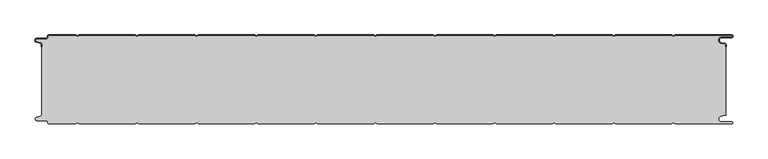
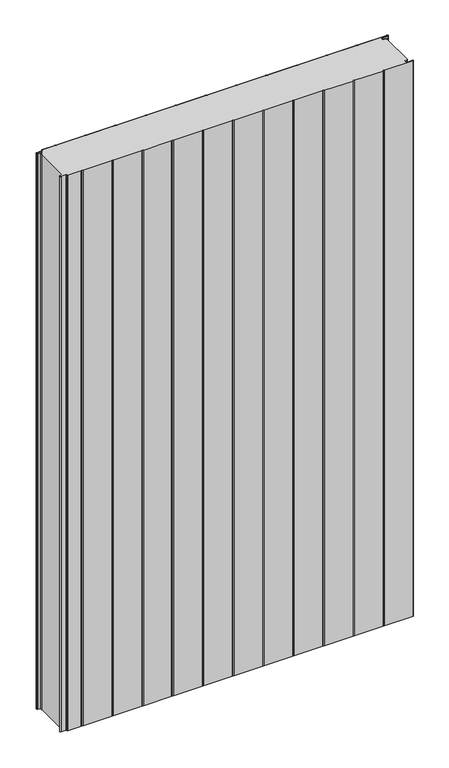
"""IFC4 building model written with IfcOpenShell, lengths in millimetres: plate geometry, PM1_Curtain-Panel_Perfil-Frigorífico : ACH_PM1_Panel-Acústico-Sectorización_150M."""

from ifc_helpers import new_model, si_unit, point, frame, frame_2d, origin, origin_with_axes, place, context, project, spatial, polyline, circle_curve, trimmed, segment, composite_curve, outline, extrude, source, transform, mapped, element, save
from ifc_brep_helpers import plane_surface, cylinder_surface, revolved_surface, advanced_brep


def plate_9c3616a6(model_context):
    return source(origin(), model_context, "Body", "SolidModel", [
        advanced_brep(
        [(-575.0, -15.878557, 1945.7507136), (-575.0, -20.0, 1945.7507136), (-574.2, -20.0, 1945.7507136), (-574.2, -15.878557, 1945.7507136), (-576.370137, -13.1503208, 1945.7507136), (-582.529863, -11.728236, 1945.7507136), (-581.9, -6.2, 1945.7507136), (-566.4, -6.2, 1945.7507136), (-563.6, -3.4, 1945.7507136), (-563.6, -2.0, 1945.7507136), (-562.4, -0.8, 1945.7507136), (-517.3143588, -0.8, 1945.7507136), (-514.4, -2.482606, 1945.7507136), (-511.4856412, -0.8, 1945.7507136), (-417.3143588, -0.8, 1945.7507136), (-414.4, -2.482606, 1945.7507136), (-411.4856412, -0.8, 1945.7507136), (-317.3143588, -0.8, 1945.7507136), (-314.4, -2.482606, 1945.7507136), (-311.4856412, -0.8, 1945.7507136), (-217.3143588, -0.8, 1945.7507136), (-214.4, -2.482606, 1945.7507136), (-211.4856412, -0.8, 1945.7507136), (-117.3143588, -0.8, 1945.7507136), (-114.4, -2.482606, 1945.7507136), (-111.4856412, -0.8, 1945.7507136), (-17.3143588, -0.8, 1945.7507136), (-14.4, -2.482606, 1945.7507136), (-11.4856412, -0.8, 1945.7507136), (82.6856412, -0.8, 1945.7507136), (85.6, -2.482606, 1945.7507136), (88.5143588, -0.8, 1945.7507136), (182.6856412, -0.8, 1945.7507136), (185.6, -2.482606, 1945.7507136), (188.5143588, -0.8, 1945.7507136), (282.6856412, -0.8, 1945.7507136), (285.6, -2.482606, 1945.7507136), (288.5143588, -0.8, 1945.7507136), (382.6856412, -0.8, 1945.7507136), (385.6, -2.482606, 1945.7507136), (388.5143588, -0.8, 1945.7507136), (482.6856412, -0.8, 1945.7507136), (485.6, -2.482606, 1945.7507136), (488.5143588, -0.8, 1945.7507136), (583.1, -0.8, 1945.7507136), (583.1, -4.2, 1945.7507136), (566.1, -4.2, 1945.7507136), (565.2664884, -13.7270771, 1945.7507136), (571.7125669, -14.8636953, 1945.7507136), (573.2, -16.6363492, 1945.7507136), (573.2, -20.0, 1945.7507136), (574.0, -20.0, 1945.7507136), (574.0, -16.6363492, 1945.7507136), (571.8514855, -14.0758491, 1945.7507136), (565.405407, -12.939231, 1945.7507136), (566.1, -5.0, 1945.7507136), (583.1, -5.0, 1945.7507136), (585.6, -2.5, 1945.7507136), (583.1, 0.0, 1945.7507136), (488.2999995, 0.0, 1945.7507136), (485.6, -1.5588455, 1945.7507136), (482.9000005, 0.0, 1945.7507136), (388.2999995, 0.0, 1945.7507136), (385.6, -1.5588455, 1945.7507136), (382.9000005, 0.0, 1945.7507136), (288.2999995, 0.0, 1945.7507136), (285.6, -1.5588455, 1945.7507136), (282.9000005, 0.0, 1945.7507136), (188.2999995, 0.0, 1945.7507136), (185.6, -1.5588455, 1945.7507136), (182.9000005, 0.0, 1945.7507136), (88.2999995, 0.0, 1945.7507136), (85.6, -1.5588455, 1945.7507136), (82.9000005, 0.0, 1945.7507136), (-11.7000005, 0.0, 1945.7507136), (-14.4, -1.5588455, 1945.7507136), (-17.0999995, 0.0, 1945.7507136), (-111.7000005, 0.0, 1945.7507136), (-114.4, -1.5588455, 1945.7507136), (-117.0999995, 0.0, 1945.7507136), (-211.7000005, 0.0, 1945.7507136), (-214.4, -1.5588455, 1945.7507136), (-217.0999995, 0.0, 1945.7507136), (-311.7000005, 0.0, 1945.7507136), (-314.4, -1.5588455, 1945.7507136), (-317.0999995, 0.0, 1945.7507136), (-411.7000005, 0.0, 1945.7507136), (-414.4, -1.5588455, 1945.7507136), (-417.0999995, 0.0, 1945.7507136), (-511.7000005, 0.0, 1945.7507136), (-514.4, -1.5588455, 1945.7507136), (-517.0999995, 0.0, 1945.7507136), (-562.4, 0.0, 1945.7507136), (-564.4, -2.0, 1945.7507136), (-564.4, -3.4, 1945.7507136), (-566.4, -5.4, 1945.7507136), (-581.9, -5.4, 1945.7507136), (-582.7098239, -12.5077322, 1945.7507136), (-576.5500979, -13.929817, 1945.7507136), (-575.0, -15.878557, 0.0), (-576.5500978, -13.9298169, 0.0), (-582.7098239, -12.507732, 0.0), (-581.9, -5.4, 0.0), (-566.4, -5.4, 0.0), (-564.4, -3.4, 0.0), (-564.4, -2.0, 0.0), (-562.4, 0.0, 0.0), (-517.0999995, 0.0, 0.0), (-514.4, -1.5588455, 0.0), (-511.7000005, 0.0, 0.0), (-417.0999995, 0.0, 0.0), (-414.4, -1.5588455, 0.0), (-411.7000005, 0.0, 0.0), (-317.0999995, 0.0, 0.0), (-314.4, -1.5588455, 0.0), (-311.7000005, 0.0, 0.0), (-217.0999995, 0.0, 0.0), (-214.4, -1.5588455, 0.0), (-211.7000005, 0.0, 0.0), (-117.0999995, 0.0, 0.0), (-114.4, -1.5588455, 0.0), (-111.7000005, 0.0, 0.0), (-17.0999995, 0.0, 0.0), (-14.4, -1.5588455, 0.0), (-11.7000005, 0.0, 0.0), (82.9000005, 0.0, 0.0), (85.6, -1.5588455, 0.0), (88.2999995, 0.0, 0.0), (182.9000005, 0.0, 0.0), (185.6, -1.5588455, 0.0), (188.2999995, 0.0, 0.0), (282.9000005, 0.0, 0.0), (285.6, -1.5588455, 0.0), (288.2999995, 0.0, 0.0), (382.9000005, 0.0, 0.0), (385.6, -1.5588455, 0.0), (388.2999995, 0.0, 0.0), (482.9000005, 0.0, 0.0), (485.6, -1.5588455, 0.0), (488.2999995, 0.0, 0.0), (583.1, 0.0, 0.0), (585.6, -2.5, 0.0), (583.1, -5.0, 0.0), (566.1, -5.0, 0.0), (565.405407, -12.939231, 0.0), (571.8514855, -14.0758491, 0.0), (574.0, -16.6363492, 0.0), (574.0, -20.0, 0.0), (573.2, -20.0, 0.0), (573.2, -16.6363492, 0.0), (571.7125669, -14.8636953, 0.0), (565.2664884, -13.7270772, 0.0), (566.1, -4.2, 0.0), (583.1, -4.2, 0.0), (583.1, -0.8, 0.0), (488.5143588, -0.8, 0.0), (485.6, -2.482606, 0.0), (482.6856412, -0.8, 0.0), (388.5143588, -0.8, 0.0), (385.6, -2.482606, 0.0), (382.6856412, -0.8, 0.0), (288.5143588, -0.8, 0.0), (285.6, -2.482606, 0.0), (282.6856412, -0.8, 0.0), (188.5143588, -0.8, 0.0), (185.6, -2.482606, 0.0), (182.6856412, -0.8, 0.0), (88.5143588, -0.8, 0.0), (85.6, -2.482606, 0.0), (82.6856412, -0.8, 0.0), (-11.4856412, -0.8, 0.0), (-14.4, -2.482606, 0.0), (-17.3143588, -0.8, 0.0), (-111.4856412, -0.8, 0.0), (-114.4, -2.482606, 0.0), (-117.3143588, -0.8, 0.0), (-211.4856412, -0.8, 0.0), (-214.4, -2.482606, 0.0), (-217.3143588, -0.8, 0.0), (-311.4856412, -0.8, 0.0), (-314.4, -2.482606, 0.0), (-317.3143588, -0.8, 0.0), (-411.4856412, -0.8, 0.0), (-414.4, -2.482606, 0.0), (-417.3143588, -0.8, 0.0), (-511.4856412, -0.8, 0.0), (-514.4, -2.482606, 0.0), (-517.3143588, -0.8, 0.0), (-562.4, -0.8, 0.0), (-563.6, -2.0, 0.0), (-563.6, -3.4, 0.0), (-566.4, -6.2, 0.0), (-581.9, -6.2, 0.0), (-582.529863, -11.7282362, 0.0), (-576.370137, -13.150321, 0.0), (-574.2, -15.878557, 0.0), (-574.2, -20.0, 0.0), (-575.0, -20.0, 0.0)],
        [
            (0, 1),
            (1, 2),
            (2, 3),
            (3, 4, circle_curve(frame((-577.0, -15.878557, 1945.7507136), z_axis=(0.0, 0.0, 1.0), x_axis=(1.0, 0.0, 0.0)), 2.8)),
            (4, 5),
            (5, 6, circle_curve(frame((-581.9, -9.0, 1945.7507136), z_axis=(0.0, 0.0, -1.0), x_axis=(1.0, 0.0, 0.0)), 2.8)),
            (6, 7),
            (7, 8, circle_curve(frame((-566.4, -3.4, 1945.7507136), z_axis=(0.0, 0.0, 1.0), x_axis=(1.0, 0.0, 0.0)), 2.8)),
            (8, 9),
            (9, 10, circle_curve(frame((-562.4, -2.0, 1945.7507136), z_axis=(0.0, 0.0, -1.0), x_axis=(1.0, 0.0, 0.0)), 1.2)),
            (10, 11),
            (11, 12),
            (12, 13),
            (13, 14),
            (14, 15),
            (15, 16),
            (16, 17),
            (17, 18),
            (18, 19),
            (19, 20),
            (20, 21),
            (21, 22),
            (22, 23),
            (23, 24),
            (24, 25),
            (25, 26),
            (26, 27),
            (27, 28),
            (28, 29),
            (29, 30),
            (30, 31),
            (31, 32),
            (32, 33),
            (33, 34),
            (34, 35),
            (35, 36),
            (36, 37),
            (37, 38),
            (38, 39),
            (39, 40),
            (40, 41),
            (41, 42),
            (42, 43),
            (43, 44),
            (44, 45, circle_curve(frame((583.1, -2.5, 1945.7507136), z_axis=(0.0, 0.0, -1.0), x_axis=(1.0, 0.0, 0.0)), 1.7)),
            (45, 46),
            (46, 47, circle_curve(frame((566.1, -9.0, 1945.7507136), z_axis=(0.0, 0.0, 1.0), x_axis=(1.0, 0.0, 0.0)), 4.8)),
            (47, 48),
            (48, 49, circle_curve(frame((571.4, -16.6363492, 1945.7507136), z_axis=(0.0, 0.0, -1.0), x_axis=(1.0, 0.0, 0.0)), 1.8)),
            (49, 50),
            (50, 51),
            (51, 52),
            (52, 53, circle_curve(frame((571.4, -16.6363492, 1945.7507136), z_axis=(0.0, 0.0, 1.0), x_axis=(1.0, 0.0, 0.0)), 2.6)),
            (53, 54),
            (54, 55, circle_curve(frame((566.1, -9.0, 1945.7507136), z_axis=(0.0, 0.0, -1.0), x_axis=(1.0, 0.0, 0.0)), 4.0)),
            (55, 56),
            (56, 57, circle_curve(frame((583.1, -2.5, 1945.7507136), z_axis=(0.0, 0.0, 1.0), x_axis=(1.0, 0.0, 0.0)), 2.5)),
            (57, 58, circle_curve(frame((583.1, -2.5, 1945.7507136), z_axis=(0.0, 0.0, 1.0), x_axis=(1.0, 0.0, 0.0)), 2.5)),
            (58, 59),
            (59, 60),
            (60, 61),
            (61, 62),
            (62, 63),
            (63, 64),
            (64, 65),
            (65, 66),
            (66, 67),
            (67, 68),
            (68, 69),
            (69, 70),
            (70, 71),
            (71, 72),
            (72, 73),
            (73, 74),
            (74, 75),
            (75, 76),
            (76, 77),
            (77, 78),
            (78, 79),
            (79, 80),
            (80, 81),
            (81, 82),
            (82, 83),
            (83, 84),
            (84, 85),
            (85, 86),
            (86, 87),
            (87, 88),
            (88, 89),
            (89, 90),
            (90, 91),
            (91, 92),
            (92, 93, circle_curve(frame((-562.4, -2.0, 1945.7507136), z_axis=(0.0, 0.0, 1.0), x_axis=(1.0, 0.0, 0.0)), 2.0)),
            (93, 94),
            (94, 95, circle_curve(frame((-566.4, -3.4, 1945.7507136), z_axis=(0.0, 0.0, -1.0), x_axis=(1.0, 0.0, 0.0)), 2.0)),
            (95, 96),
            (96, 97, circle_curve(frame((-581.9, -9.0, 1945.7507136), z_axis=(0.0, 0.0, 1.0), x_axis=(1.0, 0.0, 0.0)), 3.6)),
            (97, 98),
            (98, 0, circle_curve(frame((-577.0, -15.878557, 1945.7507136), z_axis=(0.0, 0.0, -1.0), x_axis=(1.0, 0.0, 0.0)), 2.0)),
            (99, 100, circle_curve(frame((-577.0, -15.878557, 0.0), z_axis=(0.0, 0.0, 1.0), x_axis=(1.0, 0.0, 0.0)), 2.0)),
            (100, 101),
            (101, 102, circle_curve(frame((-581.9, -9.0, 0.0), z_axis=(0.0, 0.0, -1.0), x_axis=(1.0, 0.0, 0.0)), 3.6)),
            (102, 103),
            (103, 104, circle_curve(frame((-566.4, -3.4, 0.0), z_axis=(0.0, 0.0, 1.0), x_axis=(1.0, 0.0, 0.0)), 2.0)),
            (104, 105),
            (105, 106, circle_curve(frame((-562.4, -2.0, 0.0), z_axis=(0.0, 0.0, -1.0), x_axis=(1.0, 0.0, 0.0)), 2.0)),
            (106, 107),
            (107, 108),
            (108, 109),
            (109, 110),
            (110, 111),
            (111, 112),
            (112, 113),
            (113, 114),
            (114, 115),
            (115, 116),
            (116, 117),
            (117, 118),
            (118, 119),
            (119, 120),
            (120, 121),
            (121, 122),
            (122, 123),
            (123, 124),
            (124, 125),
            (125, 126),
            (126, 127),
            (127, 128),
            (128, 129),
            (129, 130),
            (130, 131),
            (131, 132),
            (132, 133),
            (133, 134),
            (134, 135),
            (135, 136),
            (136, 137),
            (137, 138),
            (138, 139),
            (139, 140),
            (140, 141, circle_curve(frame((583.1, -2.5, 0.0), z_axis=(0.0, 0.0, -1.0), x_axis=(1.0, 0.0, 0.0)), 2.5)),
            (141, 142, circle_curve(frame((583.1, -2.5, 0.0), z_axis=(0.0, 0.0, -1.0), x_axis=(1.0, 0.0, 0.0)), 2.5)),
            (142, 143),
            (143, 144, circle_curve(frame((566.1, -9.0, 0.0), z_axis=(0.0, 0.0, 1.0), x_axis=(1.0, 0.0, 0.0)), 4.0)),
            (144, 145),
            (145, 146, circle_curve(frame((571.4, -16.6363492, 0.0), z_axis=(0.0, 0.0, -1.0), x_axis=(1.0, 0.0, 0.0)), 2.6)),
            (146, 147),
            (147, 148),
            (148, 149),
            (149, 150, circle_curve(frame((571.4, -16.6363492, 0.0), z_axis=(0.0, 0.0, 1.0), x_axis=(1.0, 0.0, 0.0)), 1.8)),
            (150, 151),
            (151, 152, circle_curve(frame((566.1, -9.0, 0.0), z_axis=(0.0, 0.0, -1.0), x_axis=(1.0, 0.0, 0.0)), 4.8)),
            (152, 153),
            (153, 154, circle_curve(frame((583.1, -2.5, 0.0), z_axis=(0.0, 0.0, 1.0), x_axis=(1.0, 0.0, 0.0)), 1.7)),
            (154, 155),
            (155, 156),
            (156, 157),
            (157, 158),
            (158, 159),
            (159, 160),
            (160, 161),
            (161, 162),
            (162, 163),
            (163, 164),
            (164, 165),
            (165, 166),
            (166, 167),
            (167, 168),
            (168, 169),
            (169, 170),
            (170, 171),
            (171, 172),
            (172, 173),
            (173, 174),
            (174, 175),
            (175, 176),
            (176, 177),
            (177, 178),
            (178, 179),
            (179, 180),
            (180, 181),
            (181, 182),
            (182, 183),
            (183, 184),
            (184, 185),
            (185, 186),
            (186, 187),
            (187, 188),
            (188, 189, circle_curve(frame((-562.4, -2.0, 0.0), z_axis=(0.0, 0.0, 1.0), x_axis=(1.0, 0.0, 0.0)), 1.2)),
            (189, 190),
            (190, 191, circle_curve(frame((-566.4, -3.4, 0.0), z_axis=(0.0, 0.0, -1.0), x_axis=(1.0, 0.0, 0.0)), 2.8)),
            (191, 192),
            (192, 193, circle_curve(frame((-581.9, -9.0, 0.0), z_axis=(0.0, 0.0, 1.0), x_axis=(1.0, 0.0, 0.0)), 2.8)),
            (193, 194),
            (194, 195, circle_curve(frame((-577.0, -15.878557, 0.0), z_axis=(0.0, 0.0, -1.0), x_axis=(1.0, 0.0, 0.0)), 2.8)),
            (195, 196),
            (196, 197),
            (197, 99),
            (0, 99),
            (197, 1),
            (196, 2),
            (195, 3),
            (194, 4),
            (193, 5),
            (192, 6),
            (191, 7),
            (190, 8),
            (189, 9),
            (188, 10),
            (187, 11),
            (186, 12),
            (185, 13),
            (184, 14),
            (183, 15),
            (182, 16),
            (181, 17),
            (180, 18),
            (179, 19),
            (178, 20),
            (177, 21),
            (176, 22),
            (175, 23),
            (174, 24),
            (173, 25),
            (172, 26),
            (171, 27),
            (170, 28),
            (169, 29),
            (168, 30),
            (167, 31),
            (166, 32),
            (165, 33),
            (164, 34),
            (163, 35),
            (162, 36),
            (161, 37),
            (160, 38),
            (159, 39),
            (158, 40),
            (157, 41),
            (156, 42),
            (155, 43),
            (154, 44),
            (153, 45),
            (152, 46),
            (151, 47),
            (150, 48),
            (149, 49),
            (148, 50),
            (147, 51),
            (146, 52),
            (145, 53),
            (144, 54),
            (143, 55),
            (142, 56),
            (140, 58),
            (139, 59),
            (138, 60),
            (137, 61),
            (136, 62),
            (135, 63),
            (134, 64),
            (133, 65),
            (132, 66),
            (131, 67),
            (130, 68),
            (129, 69),
            (128, 70),
            (127, 71),
            (126, 72),
            (125, 73),
            (124, 74),
            (123, 75),
            (122, 76),
            (121, 77),
            (120, 78),
            (119, 79),
            (118, 80),
            (117, 81),
            (116, 82),
            (115, 83),
            (114, 84),
            (113, 85),
            (112, 86),
            (111, 87),
            (110, 88),
            (109, 89),
            (108, 90),
            (107, 91),
            (106, 92),
            (105, 93),
            (104, 94),
            (103, 95),
            (102, 96),
            (101, 97),
            (100, 98),
        ],
        [
            plane_surface(frame((-575.0, 0.0, 1945.7507136), z_axis=(0.0, 0.0, 1.0), x_axis=(0.0, 1.0, 0.0))),
            plane_surface(frame((-575.0, 0.0, 0.0), z_axis=(0.0, 0.0, -1.0), x_axis=(0.0, 1.0, 0.0))),
            plane_surface(frame((-575.0, -15.878557, 1945.7507136), z_axis=(-1.0, 0.0, 0.0), x_axis=(0.0, 0.0, -1.0))),
            plane_surface(frame((-575.0, -20.0, 1945.7507136), z_axis=(0.0, -1.0, 0.0), x_axis=(0.0, 0.0, -1.0))),
            plane_surface(frame((-574.2, -20.0, 1945.7507136), z_axis=(1.0, 0.0, 0.0), x_axis=(0.0, 0.0, -1.0))),
            cylinder_surface(frame((-577.0, -15.878557, 1945.7507136), z_axis=(0.0, 0.0, 1.0), x_axis=(1.0, 0.0, 0.0)), 2.8),
            plane_surface(frame((-576.370137, -13.150321, 1945.7507136), z_axis=(0.22495108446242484, 0.9743700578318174, 0.0), x_axis=(0.0, 0.0, -1.0))),
            revolved_surface(polyline([(-579.1, -9.0, 0.0), (-579.1, -9.0, 1945.7507136)]), (-581.9, -9.0, 1945.7507136), (0.0, 0.0, -1.0)),
            plane_surface(frame((-581.9, -6.2, 1945.7507136), z_axis=(0.0, -1.0, 0.0), x_axis=(0.0, 0.0, -1.0))),
            cylinder_surface(frame((-566.4, -3.4, 1945.7507136), z_axis=(0.0, 0.0, 1.0), x_axis=(1.0, 0.0, 0.0)), 2.8),
            plane_surface(frame((-563.6, -3.4, 1945.7507136), z_axis=(1.0, 0.0, 0.0), x_axis=(0.0, 0.0, -1.0))),
            revolved_surface(polyline([(-561.1999999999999, -2.0, 0.0), (-561.1999999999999, -2.0, 1945.7507136)]), (-562.4, -2.0, 1945.7507136), (0.0, 0.0, -1.0)),
            plane_surface(frame((-562.4, -0.8, 1945.7507136), z_axis=(0.0, -1.0, 0.0), x_axis=(0.0, 0.0, -1.0))),
            plane_surface(frame((-517.3143588, -0.8, 1945.7507136), z_axis=(-0.5000000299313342, -0.8660253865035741, 0.0), x_axis=(0.0, 0.0, -1.0))),
            plane_surface(frame((-514.4, -2.482606, 1945.7507136), z_axis=(0.5000000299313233, -0.8660253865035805, 0.0), x_axis=(0.0, 0.0, -1.0))),
            plane_surface(frame((-511.4856412, -0.8, 1945.7507136), z_axis=(0.0, -1.0, 0.0), x_axis=(0.0, 0.0, -1.0))),
            plane_surface(frame((-417.3143588, -0.8, 1945.7507136), z_axis=(-0.5000000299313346, -0.8660253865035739, 0.0), x_axis=(0.0, 0.0, -1.0))),
            plane_surface(frame((-414.4, -2.482606, 1945.7507136), z_axis=(0.5000000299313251, -0.8660253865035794, 0.0), x_axis=(0.0, 0.0, -1.0))),
            plane_surface(frame((-411.4856412, -0.8, 1945.7507136), z_axis=(0.0, -1.0, 0.0), x_axis=(0.0, 0.0, -1.0))),
            plane_surface(frame((-317.3143588, -0.8, 1945.7507136), z_axis=(-0.5000000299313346, -0.866025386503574, 0.0), x_axis=(0.0, 0.0, -1.0))),
            plane_surface(frame((-314.4, -2.482606, 1945.7507136), z_axis=(0.5000000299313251, -0.8660253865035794, 0.0), x_axis=(0.0, 0.0, -1.0))),
            plane_surface(frame((-311.4856412, -0.8, 1945.7507136), z_axis=(0.0, -1.0, 0.0), x_axis=(0.0, 0.0, -1.0))),
            plane_surface(frame((-217.3143588, -0.8, 1945.7507136), z_axis=(-0.5000000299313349, -0.8660253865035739, 0.0), x_axis=(0.0, 0.0, -1.0))),
            plane_surface(frame((-214.4, -2.482606, 1945.7507136), z_axis=(0.5000000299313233, -0.8660253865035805, 0.0), x_axis=(0.0, 0.0, -1.0))),
            plane_surface(frame((-211.4856412, -0.8, 1945.7507136), z_axis=(0.0, -1.0, 0.0), x_axis=(0.0, 0.0, -1.0))),
            plane_surface(frame((-117.3143588, -0.8, 1945.7507136), z_axis=(-0.5000000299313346, -0.866025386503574, 0.0), x_axis=(0.0, 0.0, -1.0))),
            plane_surface(frame((-114.4, -2.482606, 1945.7507136), z_axis=(0.5000000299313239, -0.8660253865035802, 0.0), x_axis=(0.0, 0.0, -1.0))),
            plane_surface(frame((-111.4856412, -0.8, 1945.7507136), z_axis=(0.0, -1.0, 0.0), x_axis=(0.0, 0.0, -1.0))),
            plane_surface(frame((-17.3143588, -0.8, 1945.7507136), z_axis=(-0.5000000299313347, -0.8660253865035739, 0.0), x_axis=(0.0, 0.0, -1.0))),
            plane_surface(frame((-14.4, -2.482606, 1945.7507136), z_axis=(0.5000000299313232, -0.8660253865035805, 0.0), x_axis=(0.0, 0.0, -1.0))),
            plane_surface(frame((-11.4856412, -0.8, 1945.7507136), z_axis=(0.0, -1.0, 0.0), x_axis=(0.0, 0.0, -1.0))),
            plane_surface(frame((82.6856412, -0.8, 1945.7507136), z_axis=(-0.5000000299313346, -0.866025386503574, 0.0), x_axis=(0.0, 0.0, -1.0))),
            plane_surface(frame((85.6, -2.482606, 1945.7507136), z_axis=(0.5000000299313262, -0.8660253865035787, 0.0), x_axis=(0.0, 0.0, -1.0))),
            plane_surface(frame((88.5143588, -0.8, 1945.7507136), z_axis=(0.0, -1.0, 0.0), x_axis=(0.0, 0.0, -1.0))),
            plane_surface(frame((182.6856412, -0.8, 1945.7507136), z_axis=(-0.5000000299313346, -0.8660253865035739, 0.0), x_axis=(0.0, 0.0, -1.0))),
            plane_surface(frame((185.6, -2.482606, 1945.7507136), z_axis=(0.5000000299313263, -0.8660253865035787, 0.0), x_axis=(0.0, 0.0, -1.0))),
            plane_surface(frame((188.5143588, -0.8, 1945.7507136), z_axis=(0.0, -1.0, 0.0), x_axis=(0.0, 0.0, -1.0))),
            plane_surface(frame((282.6856412, -0.8, 1945.7507136), z_axis=(-0.5000000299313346, -0.8660253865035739, 0.0), x_axis=(0.0, 0.0, -1.0))),
            plane_surface(frame((285.6, -2.482606, 1945.7507136), z_axis=(0.5000000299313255, -0.8660253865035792, 0.0), x_axis=(0.0, 0.0, -1.0))),
            plane_surface(frame((288.5143588, -0.8, 1945.7507136), z_axis=(0.0, -1.0, 0.0), x_axis=(0.0, 0.0, -1.0))),
            plane_surface(frame((382.6856412, -0.8, 1945.7507136), z_axis=(-0.5000000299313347, -0.8660253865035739, 0.0), x_axis=(0.0, 0.0, -1.0))),
            plane_surface(frame((385.6, -2.482606, 1945.7507136), z_axis=(0.5000000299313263, -0.8660253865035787, 0.0), x_axis=(0.0, 0.0, -1.0))),
            plane_surface(frame((388.5143588, -0.8, 1945.7507136), z_axis=(0.0, -1.0, 0.0), x_axis=(0.0, 0.0, -1.0))),
            plane_surface(frame((482.6856412, -0.8, 1945.7507136), z_axis=(-0.5000000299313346, -0.866025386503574, 0.0), x_axis=(0.0, 0.0, -1.0))),
            plane_surface(frame((485.6, -2.482606, 1945.7507136), z_axis=(0.5000000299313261, -0.8660253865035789, 0.0), x_axis=(0.0, 0.0, -1.0))),
            plane_surface(frame((535.6, -0.8, 1945.7507136), z_axis=(0.0, -1.0, 0.0), x_axis=(0.0, 0.0, -1.0))),
            revolved_surface(polyline([(584.8000000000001, -2.5, 0.0), (584.8000000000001, -2.5, 1945.7507136)]), (583.1, -2.5, 1945.7507136), (0.0, 0.0, -1.0)),
            plane_surface(frame((583.1, -4.2, 1945.7507136), z_axis=(0.0, 1.0, 0.0), x_axis=(0.0, 0.0, -1.0))),
            cylinder_surface(frame((566.1, -9.0, 1945.7507136), z_axis=(0.0, 0.0, 1.0), x_axis=(1.0, 0.0, 0.0)), 4.8),
            plane_surface(frame((565.2664884, -13.7270772, 1945.7507136), z_axis=(-0.17364825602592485, -0.9848077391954, 0.0), x_axis=(0.0, 0.0, -1.0))),
            revolved_surface(polyline([(573.1999999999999, -16.6363492, 0.0), (573.1999999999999, -16.6363492, 1945.7507136)]), (571.4, -16.6363492, 1945.7507136), (0.0, 0.0, -1.0)),
            plane_surface(frame((573.2, -16.6363492, 1945.7507136), z_axis=(-1.0, 0.0, 0.0), x_axis=(0.0, 0.0, -1.0))),
            plane_surface(frame((573.2, -20.0, 1945.7507136), z_axis=(0.0, -1.0, 0.0), x_axis=(0.0, 0.0, -1.0))),
            plane_surface(frame((574.0, -20.0, 1945.7507136), z_axis=(1.0, 0.0, 0.0), x_axis=(0.0, 0.0, -1.0))),
            cylinder_surface(frame((571.4, -16.6363492, 1945.7507136), z_axis=(0.0, 0.0, 1.0), x_axis=(1.0, 0.0, 0.0)), 2.6),
            plane_surface(frame((571.8514855, -14.0758491, 1945.7507136), z_axis=(0.1736482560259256, 0.9848077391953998, 0.0), x_axis=(0.0, 0.0, -1.0))),
            revolved_surface(polyline([(570.1, -9.0, 0.0), (570.1, -9.0, 1945.7507136)]), (566.1, -9.0, 1945.7507136), (0.0, 0.0, -1.0)),
            plane_surface(frame((566.1, -5.0, 1945.7507136), z_axis=(0.0, -1.0, 0.0), x_axis=(0.0, 0.0, -1.0))),
            cylinder_surface(frame((583.1, -2.5, 1945.7507136), z_axis=(0.0, 0.0, 1.0), x_axis=(1.0, 0.0, 0.0)), 2.5),
            plane_surface(frame((535.6, 0.0, 1945.7507136), z_axis=(0.0, 1.0, 0.0), x_axis=(0.0, 0.0, -1.0))),
            plane_surface(frame((488.2999995, 0.0, 1945.7507136), z_axis=(-0.5000000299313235, 0.8660253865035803, 0.0), x_axis=(0.0, 0.0, -1.0))),
            plane_surface(frame((485.6, -1.5588455, 1945.7507136), z_axis=(0.5000000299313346, 0.8660253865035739, 0.0), x_axis=(0.0, 0.0, -1.0))),
            plane_surface(frame((482.9000005, 0.0, 1945.7507136), z_axis=(0.0, 1.0, 0.0), x_axis=(0.0, 0.0, -1.0))),
            plane_surface(frame((388.2999995, 0.0, 1945.7507136), z_axis=(-0.5000000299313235, 0.8660253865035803, 0.0), x_axis=(0.0, 0.0, -1.0))),
            plane_surface(frame((385.6, -1.5588455, 1945.7507136), z_axis=(0.5000000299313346, 0.8660253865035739, 0.0), x_axis=(0.0, 0.0, -1.0))),
            plane_surface(frame((382.9000005, 0.0, 1945.7507136), z_axis=(0.0, 1.0, 0.0), x_axis=(0.0, 0.0, -1.0))),
            plane_surface(frame((288.2999995, 0.0, 1945.7507136), z_axis=(-0.5000000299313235, 0.8660253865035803, 0.0), x_axis=(0.0, 0.0, -1.0))),
            plane_surface(frame((285.6, -1.5588455, 1945.7507136), z_axis=(0.5000000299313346, 0.8660253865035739, 0.0), x_axis=(0.0, 0.0, -1.0))),
            plane_surface(frame((282.9000005, 0.0, 1945.7507136), z_axis=(0.0, 1.0, 0.0), x_axis=(0.0, 0.0, -1.0))),
            plane_surface(frame((188.2999995, 0.0, 1945.7507136), z_axis=(-0.5000000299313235, 0.8660253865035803, 0.0), x_axis=(0.0, 0.0, -1.0))),
            plane_surface(frame((185.6, -1.5588455, 1945.7507136), z_axis=(0.5000000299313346, 0.8660253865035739, 0.0), x_axis=(0.0, 0.0, -1.0))),
            plane_surface(frame((182.9000005, 0.0, 1945.7507136), z_axis=(0.0, 1.0, 0.0), x_axis=(0.0, 0.0, -1.0))),
            plane_surface(frame((88.2999995, 0.0, 1945.7507136), z_axis=(-0.5000000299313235, 0.8660253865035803, 0.0), x_axis=(0.0, 0.0, -1.0))),
            plane_surface(frame((85.6, -1.5588455, 1945.7507136), z_axis=(0.5000000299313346, 0.8660253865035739, 0.0), x_axis=(0.0, 0.0, -1.0))),
            plane_surface(frame((82.9000005, 0.0, 1945.7507136), z_axis=(0.0, 1.0, 0.0), x_axis=(0.0, 0.0, -1.0))),
            plane_surface(frame((-11.7000005, 0.0, 1945.7507136), z_axis=(-0.5000000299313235, 0.8660253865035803, 0.0), x_axis=(0.0, 0.0, -1.0))),
            plane_surface(frame((-14.4, -1.5588455, 1945.7507136), z_axis=(0.5000000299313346, 0.8660253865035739, 0.0), x_axis=(0.0, 0.0, -1.0))),
            plane_surface(frame((-17.0999995, 0.0, 1945.7507136), z_axis=(0.0, 1.0, 0.0), x_axis=(0.0, 0.0, -1.0))),
            plane_surface(frame((-111.7000005, 0.0, 1945.7507136), z_axis=(-0.5000000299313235, 0.8660253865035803, 0.0), x_axis=(0.0, 0.0, -1.0))),
            plane_surface(frame((-114.4, -1.5588455, 1945.7507136), z_axis=(0.5000000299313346, 0.8660253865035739, 0.0), x_axis=(0.0, 0.0, -1.0))),
            plane_surface(frame((-117.0999995, 0.0, 1945.7507136), z_axis=(0.0, 1.0, 0.0), x_axis=(0.0, 0.0, -1.0))),
            plane_surface(frame((-211.7000005, 0.0, 1945.7507136), z_axis=(-0.5000000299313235, 0.8660253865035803, 0.0), x_axis=(0.0, 0.0, -1.0))),
            plane_surface(frame((-214.4, -1.5588455, 1945.7507136), z_axis=(0.5000000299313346, 0.8660253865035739, 0.0), x_axis=(0.0, 0.0, -1.0))),
            plane_surface(frame((-217.0999995, 0.0, 1945.7507136), z_axis=(0.0, 1.0, 0.0), x_axis=(0.0, 0.0, -1.0))),
            plane_surface(frame((-311.7000005, 0.0, 1945.7507136), z_axis=(-0.5000000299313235, 0.8660253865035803, 0.0), x_axis=(0.0, 0.0, -1.0))),
            plane_surface(frame((-314.4, -1.5588455, 1945.7507136), z_axis=(0.5000000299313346, 0.8660253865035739, 0.0), x_axis=(0.0, 0.0, -1.0))),
            plane_surface(frame((-317.0999995, 0.0, 1945.7507136), z_axis=(0.0, 1.0, 0.0), x_axis=(0.0, 0.0, -1.0))),
            plane_surface(frame((-411.7000005, 0.0, 1945.7507136), z_axis=(-0.5000000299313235, 0.8660253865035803, 0.0), x_axis=(0.0, 0.0, -1.0))),
            plane_surface(frame((-414.4, -1.5588455, 1945.7507136), z_axis=(0.5000000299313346, 0.8660253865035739, 0.0), x_axis=(0.0, 0.0, -1.0))),
            plane_surface(frame((-417.0999995, 0.0, 1945.7507136), z_axis=(0.0, 1.0, 0.0), x_axis=(0.0, 0.0, -1.0))),
            plane_surface(frame((-511.7000005, 0.0, 1945.7507136), z_axis=(-0.5000000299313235, 0.8660253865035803, 0.0), x_axis=(0.0, 0.0, -1.0))),
            plane_surface(frame((-514.4, -1.5588455, 1945.7507136), z_axis=(0.5000000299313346, 0.8660253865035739, 0.0), x_axis=(0.0, 0.0, -1.0))),
            plane_surface(frame((-517.0999995, 0.0, 1945.7507136), z_axis=(0.0, 1.0, 0.0), x_axis=(0.0, 0.0, -1.0))),
            cylinder_surface(frame((-562.4, -2.0, 1945.7507136), z_axis=(0.0, 0.0, 1.0), x_axis=(1.0, 0.0, 0.0)), 2.0),
            plane_surface(frame((-564.4, -2.0, 1945.7507136), z_axis=(-1.0, 0.0, 0.0), x_axis=(0.0, 0.0, -1.0))),
            revolved_surface(polyline([(-564.4, -3.4, 0.0), (-564.4, -3.4, 1945.7507136)]), (-566.4, -3.4, 1945.7507136), (0.0, 0.0, -1.0)),
            plane_surface(frame((-566.4, -5.4, 1945.7507136), z_axis=(0.0, 1.0, 0.0), x_axis=(0.0, 0.0, -1.0))),
            cylinder_surface(frame((-581.9, -9.0, 1945.7507136), z_axis=(0.0, 0.0, 1.0), x_axis=(1.0, 0.0, 0.0)), 3.6),
            plane_surface(frame((-582.7098239, -12.507732, 1945.7507136), z_axis=(-0.22495108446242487, -0.9743700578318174, 0.0), x_axis=(0.0, 0.0, -1.0))),
            revolved_surface(polyline([(-575.0, -15.878557, 0.0), (-575.0, -15.878557, 1945.7507136)]), (-577.0, -15.878557, 1945.7507136), (0.0, 0.0, -1.0)),
        ],
        [
            (0, [[1, 2, 3, 4, 5, 6, 7, 8, 9, 10, 11, 12, 13, 14, 15, 16, 17, 18, 19, 20, 21, 22, 23, 24, 25, 26, 27, 28, 29, 30, 31, 32, 33, 34, 35, 36, 37, 38, 39, 40, 41, 42, 43, 44, 45, 46, 47, 48, 49, 50, 51, 52, 53, 54, 55, 56, 57, 58, 59, 60, 61, 62, 63, 64, 65, 66, 67, 68, 69, 70, 71, 72, 73, 74, 75, 76, 77, 78, 79, 80, 81, 82, 83, 84, 85, 86, 87, 88, 89, 90, 91, 92, 93, 94, 95, 96, 97, 98, 99]]),
            (1, [[100, 101, 102, 103, 104, 105, 106, 107, 108, 109, 110, 111, 112, 113, 114, 115, 116, 117, 118, 119, 120, 121, 122, 123, 124, 125, 126, 127, 128, 129, 130, 131, 132, 133, 134, 135, 136, 137, 138, 139, 140, 141, 142, 143, 144, 145, 146, 147, 148, 149, 150, 151, 152, 153, 154, 155, 156, 157, 158, 159, 160, 161, 162, 163, 164, 165, 166, 167, 168, 169, 170, 171, 172, 173, 174, 175, 176, 177, 178, 179, 180, 181, 182, 183, 184, 185, 186, 187, 188, 189, 190, 191, 192, 193, 194, 195, 196, 197, 198]]),
            (2, [[-1, 199, -198, 200]]),
            (3, [[-2, -200, -197, 201]]),
            (4, [[-3, -201, -196, 202]]),
            (5, [[-4, -202, -195, 203]]),
            (6, [[-5, -203, -194, 204]]),
            (7, [[-6, -204, -193, 205]]),
            (8, [[-7, -205, -192, 206]]),
            (9, [[-8, -206, -191, 207]]),
            (10, [[-9, -207, -190, 208]]),
            (11, [[-10, -208, -189, 209]]),
            (12, [[-11, -209, -188, 210]]),
            (13, [[-12, -210, -187, 211]]),
            (14, [[-13, -211, -186, 212]]),
            (15, [[-14, -212, -185, 213]]),
            (16, [[-15, -213, -184, 214]]),
            (17, [[-16, -214, -183, 215]]),
            (18, [[-17, -215, -182, 216]]),
            (19, [[-18, -216, -181, 217]]),
            (20, [[-19, -217, -180, 218]]),
            (21, [[-20, -218, -179, 219]]),
            (22, [[-21, -219, -178, 220]]),
            (23, [[-22, -220, -177, 221]]),
            (24, [[-23, -221, -176, 222]]),
            (25, [[-24, -222, -175, 223]]),
            (26, [[-25, -223, -174, 224]]),
            (27, [[-26, -224, -173, 225]]),
            (28, [[-27, -225, -172, 226]]),
            (29, [[-28, -226, -171, 227]]),
            (30, [[-29, -227, -170, 228]]),
            (31, [[-30, -228, -169, 229]]),
            (32, [[-31, -229, -168, 230]]),
            (33, [[-32, -230, -167, 231]]),
            (34, [[-33, -231, -166, 232]]),
            (35, [[-34, -232, -165, 233]]),
            (36, [[-35, -233, -164, 234]]),
            (37, [[-36, -234, -163, 235]]),
            (38, [[-37, -235, -162, 236]]),
            (39, [[-38, -236, -161, 237]]),
            (40, [[-39, -237, -160, 238]]),
            (41, [[-40, -238, -159, 239]]),
            (42, [[-41, -239, -158, 240]]),
            (43, [[-42, -240, -157, 241]]),
            (44, [[-43, -241, -156, 242]]),
            (45, [[-44, -242, -155, 243]]),
            (46, [[-45, -243, -154, 244]]),
            (47, [[-46, -244, -153, 245]]),
            (48, [[-47, -245, -152, 246]]),
            (49, [[-48, -246, -151, 247]]),
            (50, [[-49, -247, -150, 248]]),
            (51, [[-50, -248, -149, 249]]),
            (52, [[-51, -249, -148, 250]]),
            (53, [[-52, -250, -147, 251]]),
            (54, [[-53, -251, -146, 252]]),
            (55, [[-54, -252, -145, 253]]),
            (56, [[-55, -253, -144, 254]]),
            (57, [[-56, -254, -143, 255]]),
            (58, [[-255, -142, -141, 256, -58, -57]]),
            (59, [[-59, -256, -140, 257]]),
            (60, [[-60, -257, -139, 258]]),
            (61, [[-61, -258, -138, 259]]),
            (62, [[-62, -259, -137, 260]]),
            (63, [[-63, -260, -136, 261]]),
            (64, [[-64, -261, -135, 262]]),
            (65, [[-65, -262, -134, 263]]),
            (66, [[-66, -263, -133, 264]]),
            (67, [[-67, -264, -132, 265]]),
            (68, [[-68, -265, -131, 266]]),
            (69, [[-69, -266, -130, 267]]),
            (70, [[-70, -267, -129, 268]]),
            (71, [[-71, -268, -128, 269]]),
            (72, [[-72, -269, -127, 270]]),
            (73, [[-73, -270, -126, 271]]),
            (74, [[-74, -271, -125, 272]]),
            (75, [[-75, -272, -124, 273]]),
            (76, [[-76, -273, -123, 274]]),
            (77, [[-77, -274, -122, 275]]),
            (78, [[-78, -275, -121, 276]]),
            (79, [[-79, -276, -120, 277]]),
            (80, [[-80, -277, -119, 278]]),
            (81, [[-81, -278, -118, 279]]),
            (82, [[-82, -279, -117, 280]]),
            (83, [[-83, -280, -116, 281]]),
            (84, [[-84, -281, -115, 282]]),
            (85, [[-85, -282, -114, 283]]),
            (86, [[-86, -283, -113, 284]]),
            (87, [[-87, -284, -112, 285]]),
            (88, [[-88, -285, -111, 286]]),
            (89, [[-89, -286, -110, 287]]),
            (90, [[-90, -287, -109, 288]]),
            (91, [[-91, -288, -108, 289]]),
            (92, [[-92, -289, -107, 290]]),
            (93, [[-93, -290, -106, 291]]),
            (94, [[-94, -291, -105, 292]]),
            (95, [[-95, -292, -104, 293]]),
            (96, [[-96, -293, -103, 294]]),
            (97, [[-97, -294, -102, 295]]),
            (98, [[-98, -295, -101, 296]]),
            (99, [[-99, -296, -100, -199]]),
        ],
    ),
        extrude(outline(composite_curve([segment(polyline([(-574.2, -134.1214426), (-574.2, -15.8785573)]), True, "CONTINUOUS"), segment(trimmed(circle_curve(frame_2d((-577.0, -15.8785573)), 2.8), [point((-574.2, -15.8785573))], [point((-576.370137, -13.1503212))], True, "CARTESIAN"), True, "CONTINUOUS"), segment(polyline([(-576.370137, -13.1503212), (-582.5298631, -11.7282362)]), True, "CONTINUOUS"), segment(trimmed(circle_curve(frame_2d((-581.9, -9.0)), 2.8), [point((-582.5298631, -11.7282362))], [point((-581.9, -6.2))], False, "CARTESIAN"), True, "CONTINUOUS"), segment(polyline([(-581.9, -6.2), (-566.4000001, -6.2)]), True, "CONTINUOUS"), segment(trimmed(circle_curve(frame_2d((-566.4000001, -3.4)), 2.8), [point((-566.4000001, -6.2))], [point((-563.6000001, -3.4))], True, "CARTESIAN"), True, "CONTINUOUS"), segment(polyline([(-563.6000001, -3.4), (-563.6000001, -2.0)]), True, "CONTINUOUS"), segment(trimmed(circle_curve(frame_2d((-562.4000001, -2.0)), 1.2), [point((-563.6000001, -2.0))], [point((-562.4000001, -0.8))], False, "CARTESIAN"), True, "CONTINUOUS"), segment(polyline([(-562.4000001, -0.8), (-517.3143589, -0.8), (-514.4000001, -2.482606), (-511.4856412, -0.8), (-417.3143589, -0.8), (-414.4000001, -2.482606), (-411.4856412, -0.8), (-317.3143589, -0.8), (-314.4000001, -2.482606), (-311.4856412, -0.8), (-217.3143589, -0.8), (-214.4000001, -2.482606), (-211.4856412, -0.8), (-117.3143589, -0.8), (-114.4000001, -2.482606), (-111.4856412, -0.8), (-17.3143589, -0.8), (-14.4000001, -2.482606), (-11.4856412, -0.8), (82.6856411, -0.8), (85.5999999, -2.482606), (88.5143588, -0.8), (182.6856411, -0.8), (185.5999999, -2.482606), (188.5143588, -0.8), (282.6856411, -0.8), (285.5999999, -2.482606), (288.5143588, -0.8), (382.6856411, -0.8), (385.5999999, -2.482606), (388.5143588, -0.8), (482.6856411, -0.8), (485.6, -2.482606), (488.5143588, -0.8), (583.1, -0.8)]), True, "CONTINUOUS"), segment(trimmed(circle_curve(frame_2d((583.1, -2.5)), 1.7), [point((583.1, -0.8))], [point((583.1, -4.2))], False, "CARTESIAN"), True, "CONTINUOUS"), segment(polyline([(583.1, -4.2), (566.1, -4.2)]), True, "CONTINUOUS"), segment(trimmed(circle_curve(frame_2d((566.1, -9.0)), 4.8), [point((566.1, -4.2))], [point((565.2664883, -13.7270771))], True, "CARTESIAN"), True, "CONTINUOUS"), segment(polyline([(565.2664883, -13.7270771), (571.7125668, -14.8636953)]), True, "CONTINUOUS"), segment(trimmed(circle_curve(frame_2d((571.4, -16.6363492)), 1.8), [point((571.7125668, -14.8636953))], [point((573.2, -16.6363492))], False, "CARTESIAN"), True, "CONTINUOUS"), segment(polyline([(573.2, -16.6363492), (573.2, -133.3636508)]), True, "CONTINUOUS"), segment(trimmed(circle_curve(frame_2d((571.4, -133.3636508)), 1.8), [point((573.2, -133.3636508))], [point((571.7125668, -135.1363047))], False, "CARTESIAN"), True, "CONTINUOUS"), segment(polyline([(571.7125668, -135.1363047), (565.2664883, -136.2729229)]), True, "CONTINUOUS"), segment(trimmed(circle_curve(frame_2d((566.1, -141.0)), 4.8), [point((565.2664883, -136.2729229))], [point((566.1, -145.8))], True, "CARTESIAN"), True, "CONTINUOUS"), segment(polyline([(566.1, -145.8), (583.1, -145.8)]), True, "CONTINUOUS"), segment(trimmed(circle_curve(frame_2d((583.1, -147.5)), 1.7), [point((583.1, -145.8))], [point((583.1, -149.2))], False, "CARTESIAN"), True, "CONTINUOUS"), segment(polyline([(583.1, -149.2), (488.5143588, -149.2), (485.6, -147.517394), (482.6856411, -149.2), (388.5143588, -149.2), (385.5999999, -147.517394), (382.6856411, -149.2), (288.5143588, -149.2), (285.5999999, -147.517394), (282.6856411, -149.2), (188.5143588, -149.2), (185.5999999, -147.517394), (182.6856411, -149.2), (88.5143588, -149.2), (85.5999999, -147.517394), (82.6856411, -149.2), (-11.4856412, -149.2), (-14.4000001, -147.517394), (-17.3143589, -149.2), (-111.4856412, -149.2), (-114.4000001, -147.517394), (-117.3143589, -149.2), (-211.4856412, -149.2), (-214.4000001, -147.517394), (-217.3143589, -149.2), (-311.4856412, -149.2), (-314.4000001, -147.517394), (-317.3143589, -149.2), (-411.4856412, -149.2), (-414.4000001, -147.517394), (-417.3143589, -149.2), (-511.4856412, -149.2), (-514.4000001, -147.517394), (-517.3143589, -149.2), (-562.4000001, -149.2)]), True, "CONTINUOUS"), segment(trimmed(circle_curve(frame_2d((-562.4000001, -148.0)), 1.2), [point((-562.4000001, -149.2))], [point((-563.6000001, -148.0))], False, "CARTESIAN"), True, "CONTINUOUS"), segment(polyline([(-563.6000001, -148.0), (-563.6000001, -146.6)]), True, "CONTINUOUS"), segment(trimmed(circle_curve(frame_2d((-566.4000001, -146.6)), 2.8), [point((-563.6000001, -146.6))], [point((-566.4000001, -143.8))], True, "CARTESIAN"), True, "CONTINUOUS"), segment(polyline([(-566.4000001, -143.8), (-581.9, -143.8)]), True, "CONTINUOUS"), segment(trimmed(circle_curve(frame_2d((-581.9, -141.0)), 2.8), [point((-581.9, -143.8))], [point((-582.5298631, -138.2717638))], False, "CARTESIAN"), True, "CONTINUOUS"), segment(polyline([(-582.5298631, -138.2717638), (-576.370137, -136.8496788)]), True, "CONTINUOUS"), segment(trimmed(circle_curve(frame_2d((-577.0, -134.1214426)), 2.8), [point((-576.370137, -136.8496788))], [point((-574.2, -134.1214426))], True, "CARTESIAN"), True, "CONTINUOUS")], self_intersect=False)), origin_with_axes(), (0.0, 0.0, 1.0), 1945.7507136),
    ])


if __name__ == "__main__":
    model = new_model("IFC4")
    model_context = context("Model", 3, world=origin())
    ifc_project = project(units=[si_unit("LENGTHUNIT", "METRE", prefix="MILLI")], contexts=[model_context])
    site = spatial("IfcSite", under=ifc_project)
    building = spatial("IfcBuilding", under=site)
    placement = place(None, origin())
    plate_shape = plate_9c3616a6(model_context)
    element("IfcPlate", 1, ObjectType="PM1_Curtain-Panel_Perfil-Frigorífico : ACH_PM1_Panel-Acústico-Sectorización_150M", at=placement, inside=building, context=model_context, shape_type="MappedRepresentation", body=[
        mapped(plate_shape, transform((0.0, 0.0, 0.0), x_axis=(1.0, 0.0, 0.0), y_axis=(0.0, 1.0, 0.0), z_axis=(0.0, 0.0, 1.0))),
    ])
    save(model, "model.ifc")
